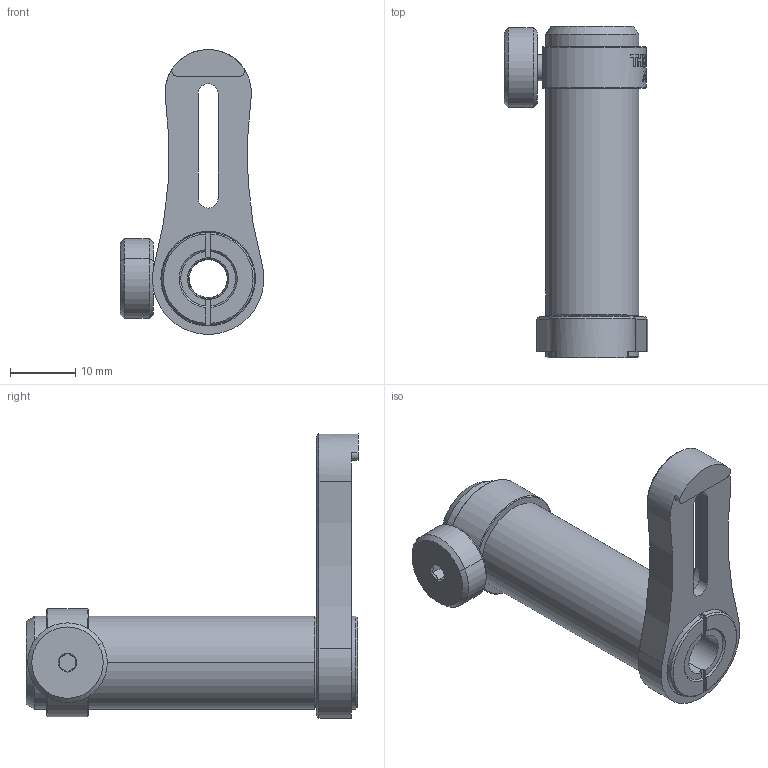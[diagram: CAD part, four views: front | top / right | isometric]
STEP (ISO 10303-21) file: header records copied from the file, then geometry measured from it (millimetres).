
FILE_DESCRIPTION (( 'STEP AP214' ), '1' );
FILE_NAME ('8587-E0W.STEP', '2016-12-22T14:57:19', ( '' ), ( '' ), 'SwSTEP 2.0', 'SolidWorks 2016', '' );
FILE_SCHEMA (( 'AUTOMOTIVE_DESIGN' ));
Length unit declared in the file: inch
Products named in the file (1): 8587-E0W
Bounding box: 21.98 x 50.8 x 43.59 mm (x, y, z)
Volume: 8415.6 mm3; surface area: 6696.6 mm2
Topology: 5 solids, 5 shells, 376 faces, 962 edges, 623 vertices
Faces by surface type: plane 151, bspline 101, cylinder 69, cone 51, torus 4
Entity records: 22489 total; most frequent: CARTESIAN_POINT 9126, ORIENTED_EDGE 1924, DIRECTION 1447, EDGE_CURVE 962, VERTEX_POINT 623, AXIS2_PLACEMENT_3D 576, EDGE_LOOP 415, LENGTH_MEASURE_WITH_UNIT 383
